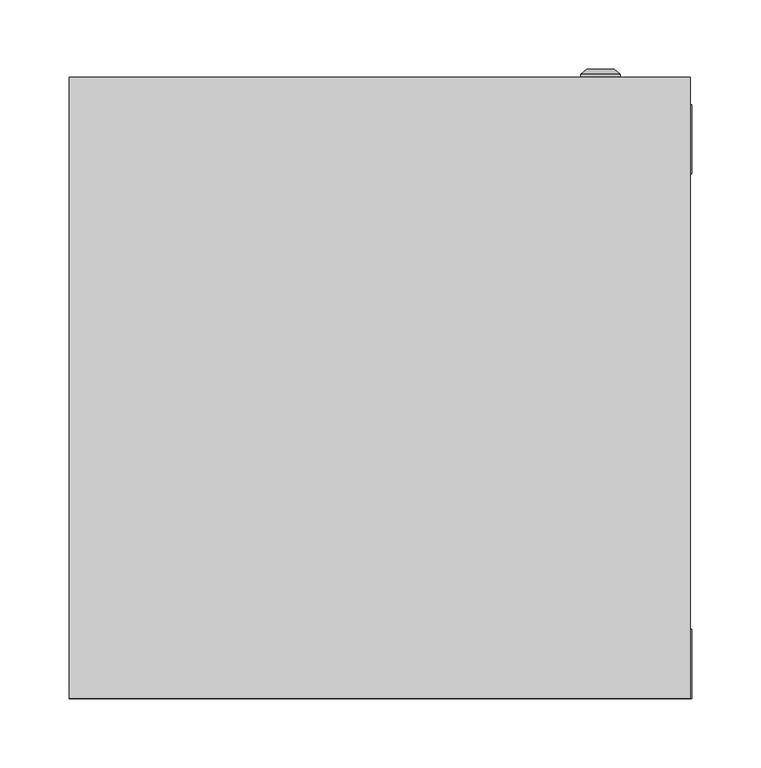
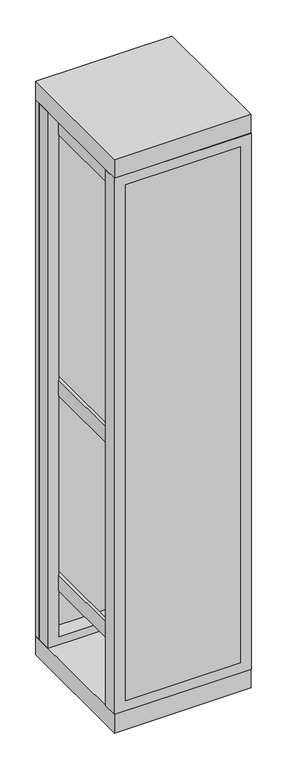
"""IFC4 building model written with IfcOpenShell, lengths in millimetres: proxy geometry, ВРУ-1 : ВРУ-1_2000х450х450."""

import ifcopenshell
import ifcopenshell.guid

model = None  # the IFC model being written
_history = None  # IfcOwnerHistory: only IFC2X3 demands one
_inside = {}  # id of a spatial element -> (the spatial element, [elements in it])
_under = {}  # id of a project, library or spatial element -> (it, [spatial elements below it])
_declared = {}  # id of a project -> (the project, [libraries it declares])
_typed = {}  # id of a type object -> (the type object, [elements of that type])
_made_of = {}  # id of a material, layer set ... -> (it, [elements and type objects made of it])


def new_model(schema):
    """Start an empty IFC model of exactly this schema.

    Asked for "IFC4X3", IfcOpenShell would pick the latest addendum, in which some entities
    have other attributes; the version numbers below select the first issue.
    IFC2X3 requires an IfcOwnerHistory on every rooted entity: one is made here for all.
    """
    global model, _history
    if schema == "IFC4X3":
        model = ifcopenshell.file(schema_version=(4, 3, 0, 0))
    else:
        model = ifcopenshell.file(schema=schema)
    _inside.clear()
    _under.clear()
    _declared.clear()
    _typed.clear()
    _made_of.clear()
    _history = None
    if model.schema == "IFC2X3":
        org = make("IfcOrganization", Name="unknown")
        user = make(
            "IfcPersonAndOrganization",
            ThePerson=make("IfcPerson", FamilyName="unknown"),
            TheOrganization=org,
        )
        app = make(
            "IfcApplication",
            ApplicationDeveloper=org,
            Version="unknown",
            ApplicationFullName="unknown",
            ApplicationIdentifier="unknown",
        )
        _history = make(
            "IfcOwnerHistory",
            OwningUser=user,
            OwningApplication=app,
            ChangeAction="ADDED",
            CreationDate=0,
        )
    return model


def make(cls, **values):
    """One entity of the class cls with the attributes given. An attribute that is None is left unset."""
    return model.create_entity(
        cls, **{name: value for name, value in values.items() if value is not None}
    )


def rooted(cls, **values):
    """An entity with a GlobalId (a new one), such as an element, a storey or a relation."""
    return make(cls, GlobalId=ifcopenshell.guid.new(), OwnerHistory=_history, **values)


def si_unit(unit_type, name, prefix=None):
    """IfcSIUnit, for example si_unit("LENGTHUNIT", "METRE", prefix="MILLI")."""
    return make("IfcSIUnit", UnitType=unit_type, Prefix=prefix, Name=name)


def assignment(units):
    """IfcUnitAssignment: the units of a project."""
    return None if units is None else make("IfcUnitAssignment", Units=units)


def point(xyz):
    """IfcCartesianPoint."""
    return None if xyz is None else make("IfcCartesianPoint", Coordinates=xyz)


def direction(xyz):
    """IfcDirection."""
    return None if xyz is None else make("IfcDirection", DirectionRatios=xyz)


def frame(location, z_axis=None, x_axis=None):
    """IfcAxis2Placement3D, a coordinate frame: its origin and axes. An axis left out is left unset."""
    return make(
        "IfcAxis2Placement3D",
        Location=point(location),
        Axis=direction(z_axis),
        RefDirection=direction(x_axis),
    )


def origin():
    """The frame at (0, 0, 0) with its axes left unset."""
    return frame((0.0, 0.0, 0.0))


def origin_with_axes():
    """The frame at (0, 0, 0) with the z axis (0, 0, 1) and the x axis (1, 0, 0) written out."""
    return frame((0.0, 0.0, 0.0), z_axis=(0.0, 0.0, 1.0), x_axis=(1.0, 0.0, 0.0))


def place(relative_to, where):
    """IfcLocalPlacement: puts the frame where relative to a parent placement (None: the world)."""
    return make(
        "IfcLocalPlacement", PlacementRelTo=relative_to, RelativePlacement=where
    )


def context(
    kind, dimensions, precision=None, world=None, true_north=None, identifier=None
):
    """IfcGeometricRepresentationContext, for example the 3D "Model" context."""
    return make(
        "IfcGeometricRepresentationContext",
        ContextIdentifier=identifier,
        ContextType=kind,
        CoordinateSpaceDimension=dimensions,
        Precision=precision,
        WorldCoordinateSystem=world,
        TrueNorth=true_north,
    )


def project(units=None, contexts=None):
    """IfcProject with its units and contexts."""
    return rooted(
        "IfcProject",
        Name="project",
        RepresentationContexts=contexts,
        UnitsInContext=assignment(units),
    )


def spatial(cls, under=None, at=None, **own):
    """A site, building, storey or space (cls), placed at a placement, below another one or the project."""
    s = rooted(cls, ObjectPlacement=at, **own)
    if under is not None:
        _under.setdefault(under.id(), (under, []))[1].append(s)
    return s


def polyline(points):
    """IfcPolyline through the points."""
    return make("IfcPolyline", Points=[point(p) for p in points])


def circle_curve(where, radius):
    """IfcCircle in the frame where."""
    return make("IfcCircle", Position=where, Radius=radius)


def outline(outer, holes=None, kind="AREA"):
    """IfcArbitraryClosedProfileDef: a profile drawn as a closed curve; with holes, ...WithVoids."""
    if holes is None:
        return make("IfcArbitraryClosedProfileDef", ProfileType=kind, OuterCurve=outer)
    return make(
        "IfcArbitraryProfileDefWithVoids",
        ProfileType=kind,
        OuterCurve=outer,
        InnerCurves=holes,
    )


def extrude(swept, where, along, depth):
    """IfcExtrudedAreaSolid: the profile swept, set in the frame where, extruded along a direction by depth."""
    return make(
        "IfcExtrudedAreaSolid",
        SweptArea=swept,
        Position=where,
        ExtrudedDirection=direction(along),
        Depth=depth,
    )


def shape(context_of_items, identifier, shape_type, items):
    """IfcShapeRepresentation: the items that make up one representation, for example the "Body"."""
    return make(
        "IfcShapeRepresentation",
        ContextOfItems=context_of_items,
        RepresentationIdentifier=identifier,
        RepresentationType=shape_type,
        Items=items,
    )


def source(mapping_origin, context_of_items, identifier, shape_type, items):
    """IfcRepresentationMap: a shape defined once, which mapped items show again and again."""
    return make(
        "IfcRepresentationMap",
        MappingOrigin=mapping_origin,
        MappedRepresentation=shape(context_of_items, identifier, shape_type, items),
    )


def transform(
    local_origin,
    x_axis=None,
    y_axis=None,
    z_axis=None,
    scale=None,
    scale2=None,
    scale3=None,
    uniform=True,
):
    """IfcCartesianTransformationOperator3D, or its non-uniform kind. x_axis, y_axis, z_axis: its Axis1, 2, 3."""
    if uniform:
        return make(
            "IfcCartesianTransformationOperator3D",
            Axis1=direction(x_axis),
            Axis2=direction(y_axis),
            LocalOrigin=point(local_origin),
            Scale=scale,
            Axis3=direction(z_axis),
        )
    return make(
        "IfcCartesianTransformationOperator3DnonUniform",
        Axis1=direction(x_axis),
        Axis2=direction(y_axis),
        LocalOrigin=point(local_origin),
        Scale=scale,
        Axis3=direction(z_axis),
        Scale2=scale2,
        Scale3=scale3,
    )


def mapped(mapping_source, mapping_target):
    """IfcMappedItem: shows the shape of a source again, moved by a transform."""
    return make(
        "IfcMappedItem", MappingSource=mapping_source, MappingTarget=mapping_target
    )


def made_of(thing, what):
    """Note that an element or type object is made of a material, layer set ...; save() writes the relation."""
    if what is not None:
        _made_of.setdefault(what.id(), (what, []))[1].append(thing)
    return thing


def element(
    cls,
    number,
    at=None,
    inside=None,
    cuts=None,
    type_object=None,
    material=None,
    context=None,
    identifier="Body",
    shape_type=None,
    held_by="IfcProductDefinitionShape",
    body=None,
    shapes=None,
    **own,
):
    """One element of the class cls, such as IfcWall. Its Tag is "e" and its number.

    at: its placement. inside: the storey or other place that contains it. cuts: it is an
    opening in that element (IfcRelVoidsElement). A single representation is given by context,
    identifier, shape_type and body (its items); several are given by shapes. held_by: the class
    of the entity that holds the representations. save() writes the other relations.
    """
    e = rooted(cls, Tag="e%d" % number, ObjectPlacement=at, **own)
    if body is not None:
        shapes = [shape(context, identifier, shape_type, body)]
    if shapes is not None:
        e.Representation = make(held_by, Representations=shapes)
    if inside is not None:
        _inside.setdefault(inside.id(), (inside, []))[1].append(e)
    if cuts is not None:
        rooted(
            "IfcRelVoidsElement", RelatingBuildingElement=cuts, RelatedOpeningElement=e
        )
    if type_object is not None:
        _typed.setdefault(type_object.id(), (type_object, []))[1].append(e)
    return made_of(e, material)


def aggregate(whole, parts):
    """IfcRelAggregates: a whole, such as a stair, and the parts it consists of."""
    return rooted("IfcRelAggregates", RelatingObject=whole, RelatedObjects=parts)


def save(model, path):
    """Write the relations noted so far, then the file.

    IfcRelAggregates (storeys below a building ...), IfcRelContainedInSpatialStructure (elements
    in a storey), IfcRelDefinesByType, IfcRelAssociatesMaterial and IfcRelDeclares: one each for
    every whole, place, type object, material and project.
    """
    for whole, parts in _under.values():
        aggregate(whole, parts)
    for where, things in _inside.values():
        rooted(
            "IfcRelContainedInSpatialStructure",
            RelatedElements=things,
            RelatingStructure=where,
        )
    for kind, things in _typed.values():
        rooted("IfcRelDefinesByType", RelatedObjects=things, RelatingType=kind)
    for what, things in _made_of.values():
        rooted("IfcRelAssociatesMaterial", RelatedObjects=things, RelatingMaterial=what)
    for by, libraries in _declared.values():
        rooted("IfcRelDeclares", RelatingContext=by, RelatedDefinitions=libraries)
    model.write(path)


def plane_surface(at):
    """IfcPlane: the flat surface through the origin of the frame at, square to its z axis."""
    return make("IfcPlane", Position=at)


def cylinder_surface(at, radius):
    """IfcCylindricalSurface: all points at the distance radius from the z axis of the frame at."""
    return make("IfcCylindricalSurface", Position=at, Radius=radius)


def revolved_surface(curve, axis_point, axis_direction):
    """IfcSurfaceOfRevolution: the curve turned about the line through axis_point along axis_direction."""
    return make(
        "IfcSurfaceOfRevolution",
        SweptCurve=make("IfcArbitraryOpenProfileDef", ProfileType="CURVE", Curve=curve),
        AxisPosition=make("IfcAxis1Placement", Location=point(axis_point), Axis=direction(axis_direction)),
    )


def advanced_brep(points, edges, surfaces, faces):
    """IfcAdvancedBrep: a solid bounded by faces that lie on surfaces and meet in shared edges.

    An edge is (start, end): straight between two places in points (the first is 0);
    or (start, end, curve); or (start, end, curve, False) where it runs against its curve.
    A face is (place in surfaces, loops), or (place, loops, False) where it looks against
    its surface's normal. A loop lists edges by number (the first is 1), with a minus sign
    where the edge is run from its end to its start. The first loop is the outer one.
    """
    corners = [point(p) for p in points]
    vertices = [make("IfcVertexPoint", VertexGeometry=c) for c in corners]
    made = []
    for start, end, *more in edges:
        made.append(
            make(
                "IfcEdgeCurve",
                EdgeStart=vertices[start],
                EdgeEnd=vertices[end],
                EdgeGeometry=more[0] if more else make("IfcPolyline", Points=[corners[start], corners[end]]),
                SameSense=more[1] if len(more) > 1 else True,
            )
        )
    hull = []
    for where, loops, *sense in faces:
        bounds = []
        for j, loop in enumerate(loops):
            ring = [make("IfcOrientedEdge", EdgeElement=made[abs(k) - 1], Orientation=k > 0) for k in loop]
            bounds.append(
                make(
                    "IfcFaceOuterBound" if j == 0 else "IfcFaceBound",
                    Bound=make("IfcEdgeLoop", EdgeList=ring),
                    Orientation=True,
                )
            )
        hull.append(make("IfcAdvancedFace", Bounds=bounds, FaceSurface=surfaces[where], SameSense=sense[0] if sense else True))
    return make("IfcAdvancedBrep", Outer=make("IfcClosedShell", CfsFaces=hull))


def electrical_equipment_68182195(model_context):
    return source(origin(), model_context, "Body", "SolidModel", [
        extrude(outline(polyline([(190.8707865, 0.0), (-188.3426966, 0.0), (-188.3426966, 10.0), (190.8707865, 10.0), (190.8707865, 0.0)])), frame((0.0, 0.0, 99.1378449), z_axis=(0.0, 0.0, 1.0), x_axis=(1.0, 0.0, 0.0)), (0.0, 0.0, 1.0), 1799.6160511),
        extrude(outline(polyline([(-180.8707865, 125.9831461), (-140.8707865, 125.9831461), (-140.8707865, 93.1179775), (-143.8707865, 93.1179775), (-143.8707865, 122.9831461), (-177.8707865, 122.9831461), (-177.8707865, 93.1179775), (-180.8707865, 93.1179775), (-180.8707865, 125.9831461)])), frame((0.0, 0.0, 189.6067416), z_axis=(0.0, 0.0, 1.0), x_axis=(1.0, 0.0, 0.0)), (0.0, 0.0, 1.0), 1745.3932584),
        extrude(outline(polyline([(140.8707865, 125.9831461), (180.8707865, 125.9831461), (180.8707865, 93.1179775), (177.8707865, 93.1179775), (177.8707865, 122.9831461), (143.8707865, 122.9831461), (143.8707865, 93.1179775), (140.8707865, 93.1179775), (140.8707865, 125.9831461)])), frame((0.0, 0.0, 189.6067416), z_axis=(0.0, 0.0, 1.0), x_axis=(1.0, 0.0, 0.0)), (0.0, 0.0, 1.0), 1745.3932584),
        extrude(outline(polyline([(-180.8707865, 10.0), (-190.8707865, 10.0), (-190.8707865, 430.0), (-180.8707865, 430.0), (-180.8707865, 10.0)])), frame((0.0, 0.0, 1845.5966059), z_axis=(0.0, 0.0, 1.0), x_axis=(1.0, 0.0, 0.0)), (0.0, 0.0, 1.0), 53.0898876),
        extrude(outline(polyline([(190.8707865, 10.0), (180.8707865, 10.0), (180.8707865, 430.0), (190.8707865, 430.0), (190.8707865, 10.0)])), frame((0.0, 0.0, 1845.5966059), z_axis=(0.0, 0.0, 1.0), x_axis=(1.0, 0.0, 0.0)), (0.0, 0.0, 1.0), 53.0898876),
        extrude(outline(polyline([(-180.8707865, 10.0), (-190.8707865, 10.0), (-190.8707865, 430.0), (-180.8707865, 430.0), (-180.8707865, 10.0)])), frame((0.0, 0.0, 255.5966059), z_axis=(0.0, 0.0, 1.0), x_axis=(1.0, 0.0, 0.0)), (0.0, 0.0, 1.0), 53.0898876),
        extrude(outline(polyline([(190.8707865, 10.0), (180.8707865, 10.0), (180.8707865, 430.0), (190.8707865, 430.0), (190.8707865, 10.0)])), frame((0.0, 0.0, 255.5966059), z_axis=(0.0, 0.0, 1.0), x_axis=(1.0, 0.0, 0.0)), (0.0, 0.0, 1.0), 53.0898876),
        extrude(outline(polyline([(-180.8707865, 10.0), (-190.8707865, 10.0), (-190.8707865, 430.0), (-180.8707865, 430.0), (-180.8707865, 10.0)])), frame((0.0, 0.0, 935.5966059), z_axis=(0.0, 0.0, 1.0), x_axis=(1.0, 0.0, 0.0)), (0.0, 0.0, 1.0), 53.0898876),
        extrude(outline(polyline([(190.8707865, 0.0), (180.8707865, 0.0), (180.8707865, 430.0), (190.8707865, 430.0), (190.8707865, 0.0)])), frame((0.0, 0.0, 935.5966059), z_axis=(0.0, 0.0, 1.0), x_axis=(1.0, 0.0, 0.0)), (0.0, 0.0, 1.0), 53.0898876),
        extrude(outline(polyline([(1934.1471543, -225.0), (65.0187804, -225.0), (65.0187804, 226.2640449), (1934.1471543, 226.2640449), (1934.1471543, -225.0)]), holes=[polyline([(99.1378449, 190.8707865), (99.1378449, -188.3426966), (1898.7538959, -188.3426966), (1898.7538959, 190.8707865), (99.1378449, 190.8707865)])]), frame((0.0, 0.0, 0.0), z_axis=(0.0, 1.0, 0.0), x_axis=(0.0, 0.0, 1.0)), (0.0, 0.0, 1.0), 50.0),
        extrude(outline(polyline([(1935.0, -225.0), (65.0187804, -225.0), (65.0187804, 226.2640449), (1935.0, 226.2640449), (1935.0, -225.0)]), holes=[polyline([(93.3701084, 190.8707865), (93.3701084, -188.3426966), (1892.9861595, -188.3426966), (1892.9861595, 190.8707865), (93.3701084, 190.8707865)])]), frame((0.0, 380.0, 0.0), z_axis=(0.0, 1.0, 0.0), x_axis=(0.0, 0.0, 1.0)), (0.0, 0.0, 1.0), 50.0),
        extrude(outline(polyline([(225.0067809, 450.0), (225.0067809, 0.0), (-225.0, 0.0), (-225.0, 450.0), (225.0067809, 450.0)])), frame((0.0, 0.0, 1935.0), z_axis=(0.0, 0.0, 1.0), x_axis=(1.0, 0.0, 0.0)), (0.0, 0.0, 1.0), 65.0),
        advanced_brep(
        [(145.669873, 450.0, 515.0), (174.330127, 450.0, 515.0), (160.0, 450.0, 515.0), (145.669873, 452.366592, 515.0), (174.330127, 452.366592, 515.0), (150.0, 456.0, 515.0), (170.0, 456.0, 515.0), (158.1080471, 456.0, 515.0), (161.8919529, 456.0, 515.0), (158.1080471, 454.9822294, 515.0), (161.8919529, 454.9822294, 515.0), (160.0, 454.9822294, 515.0)],
        [
            (0, 1, circle_curve(frame((160.0, 450.0, 515.0), z_axis=(0.0, -1.0, 0.0), x_axis=(1.0, 0.0, 0.0)), 14.330127)),
            (1, 2),
            (2, 0),
            (1, 0, circle_curve(frame((160.0, 450.0, 515.0), z_axis=(0.0, -1.0, 0.0), x_axis=(1.0, 0.0, 0.0)), 14.330127)),
            (3, 4, circle_curve(frame((160.0, 452.366592, 515.0), z_axis=(0.0, -1.0, 0.0), x_axis=(1.0, 0.0, 0.0)), 14.330127)),
            (4, 1),
            (0, 3),
            (4, 3, circle_curve(frame((160.0, 452.366592, 515.0), z_axis=(0.0, -1.0, 0.0), x_axis=(1.0, 0.0, 0.0)), 14.330127)),
            (5, 6, circle_curve(frame((160.0, 456.0, 515.0), z_axis=(0.0, -1.0, 0.0), x_axis=(1.0, 0.0, 0.0)), 10.0)),
            (6, 4),
            (3, 5),
            (6, 5, circle_curve(frame((160.0, 456.0, 515.0), z_axis=(0.0, -1.0, 0.0), x_axis=(1.0, 0.0, 0.0)), 10.0)),
            (7, 8, circle_curve(frame((160.0, 456.0, 515.0), z_axis=(0.0, -1.0, 0.0), x_axis=(1.0, 0.0, 0.0)), 1.8919529)),
            (8, 6),
            (5, 7),
            (8, 7, circle_curve(frame((160.0, 456.0, 515.0), z_axis=(0.0, -1.0, 0.0), x_axis=(1.0, 0.0, 0.0)), 1.8919529)),
            (9, 10, circle_curve(frame((160.0, 454.9822294, 515.0), z_axis=(0.0, -1.0, 0.0), x_axis=(1.0, 0.0, 0.0)), 1.8919529)),
            (10, 8),
            (7, 9),
            (10, 9, circle_curve(frame((160.0, 454.9822294, 515.0), z_axis=(0.0, -1.0, 0.0), x_axis=(1.0, 0.0, 0.0)), 1.8919529)),
            (11, 10),
            (9, 11),
        ],
        [
            plane_surface(frame((160.0, 450.0, 515.0), z_axis=(0.0, -1.0, 0.0), x_axis=(1.0, 0.0, 0.0))),
            cylinder_surface(frame((160.0, 463.1348851, 515.0), z_axis=(0.0, 1.0, 0.0), x_axis=(1.0, 0.0, 0.0)), 14.330127),
            revolved_surface(polyline([(174.330127, 452.366592, 515.0), (170.0, 456.0, 515.0)]), (160.0, 463.1348851, 515.0), (0.0, 1.0, 0.0)),
            plane_surface(frame((160.0, 456.0, 515.0), z_axis=(0.0, 1.0, 0.0), x_axis=(1.0, 0.0, 0.0))),
            revolved_surface(polyline([(161.8919529, 456.0, 515.0), (161.8919529, 454.9822294, 515.0)]), (160.0, 463.1348851, 515.0), (0.0, 1.0, 0.0)),
            plane_surface(frame((160.0, 454.9822294, 515.0), z_axis=(0.0, 1.0, 0.0), x_axis=(1.0, 0.0, 0.0))),
        ],
        [
            (0, [[1, 2, 3]]),
            (0, [[4, -3, -2]]),
            (1, [[5, 6, -1, 7]]),
            (1, [[8, -7, -4, -6]]),
            (2, [[9, 10, -5, 11]]),
            (2, [[12, -11, -8, -10]]),
            (3, [[13, 14, -9, 15]]),
            (3, [[16, -15, -12, -14]]),
            (4, [[17, 18, -13, 19]]),
            (4, [[20, -19, -16, -18]]),
            (5, [[21, -17, 22]]),
            (5, [[-22, -20, -21]]),
        ],
    ),
        advanced_brep(
        [(145.669873, 450.0, 1485.0), (174.330127, 450.0, 1485.0), (160.0, 450.0, 1485.0), (145.669873, 452.366592, 1485.0), (174.330127, 452.366592, 1485.0), (150.0, 456.0, 1485.0), (170.0, 456.0, 1485.0), (158.1080471, 456.0, 1485.0), (161.8919529, 456.0, 1485.0), (158.1080471, 454.9822294, 1485.0), (161.8919529, 454.9822294, 1485.0), (160.0, 454.9822294, 1485.0)],
        [
            (0, 1, circle_curve(frame((160.0, 450.0, 1485.0), z_axis=(0.0, -1.0, 0.0), x_axis=(1.0, 0.0, 0.0)), 14.330127)),
            (1, 2),
            (2, 0),
            (1, 0, circle_curve(frame((160.0, 450.0, 1485.0), z_axis=(0.0, -1.0, 0.0), x_axis=(1.0, 0.0, 0.0)), 14.330127)),
            (3, 4, circle_curve(frame((160.0, 452.366592, 1485.0), z_axis=(0.0, -1.0, 0.0), x_axis=(1.0, 0.0, 0.0)), 14.330127)),
            (4, 1),
            (0, 3),
            (4, 3, circle_curve(frame((160.0, 452.366592, 1485.0), z_axis=(0.0, -1.0, 0.0), x_axis=(1.0, 0.0, 0.0)), 14.330127)),
            (5, 6, circle_curve(frame((160.0, 456.0, 1485.0), z_axis=(0.0, -1.0, 0.0), x_axis=(1.0, 0.0, 0.0)), 10.0)),
            (6, 4),
            (3, 5),
            (6, 5, circle_curve(frame((160.0, 456.0, 1485.0), z_axis=(0.0, -1.0, 0.0), x_axis=(1.0, 0.0, 0.0)), 10.0)),
            (7, 8, circle_curve(frame((160.0, 456.0, 1485.0), z_axis=(0.0, -1.0, 0.0), x_axis=(1.0, 0.0, 0.0)), 1.8919529)),
            (8, 6),
            (5, 7),
            (8, 7, circle_curve(frame((160.0, 456.0, 1485.0), z_axis=(0.0, -1.0, 0.0), x_axis=(1.0, 0.0, 0.0)), 1.8919529)),
            (9, 10, circle_curve(frame((160.0, 454.9822294, 1485.0), z_axis=(0.0, -1.0, 0.0), x_axis=(1.0, 0.0, 0.0)), 1.8919529)),
            (10, 8),
            (7, 9),
            (10, 9, circle_curve(frame((160.0, 454.9822294, 1485.0), z_axis=(0.0, -1.0, 0.0), x_axis=(1.0, 0.0, 0.0)), 1.8919529)),
            (11, 10),
            (9, 11),
        ],
        [
            plane_surface(frame((160.0, 450.0, 1485.0), z_axis=(0.0, -1.0, 0.0), x_axis=(1.0, 0.0, 0.0))),
            cylinder_surface(frame((160.0, 463.1348851, 1485.0), z_axis=(0.0, 1.0, 0.0), x_axis=(1.0, 0.0, 0.0)), 14.330127),
            revolved_surface(polyline([(174.330127, 452.366592, 1485.0), (170.0, 456.0, 1485.0)]), (160.0, 463.1348851, 1485.0), (0.0, 1.0, 0.0)),
            plane_surface(frame((160.0, 456.0, 1485.0), z_axis=(0.0, 1.0, 0.0), x_axis=(1.0, 0.0, 0.0))),
            revolved_surface(polyline([(161.8919529, 456.0, 1485.0), (161.8919529, 454.9822294, 1485.0)]), (160.0, 463.1348851, 1485.0), (0.0, 1.0, 0.0)),
            plane_surface(frame((160.0, 454.9822294, 1485.0), z_axis=(0.0, 1.0, 0.0), x_axis=(1.0, 0.0, 0.0))),
        ],
        [
            (0, [[1, 2, 3]]),
            (0, [[4, -3, -2]]),
            (1, [[5, 6, -1, 7]]),
            (1, [[8, -7, -4, -6]]),
            (2, [[9, 10, -5, 11]]),
            (2, [[12, -11, -8, -10]]),
            (3, [[13, 14, -9, 15]]),
            (3, [[16, -15, -12, -14]]),
            (4, [[17, 18, -13, 19]]),
            (4, [[20, -19, -16, -18]]),
            (5, [[21, -17, 22]]),
            (5, [[-22, -20, -21]]),
        ],
    ),
        extrude(outline(polyline([(225.0067809, 450.0), (225.0067809, 0.0), (-225.0, 0.0), (-225.0, 450.0), (225.0067809, 450.0)])), origin_with_axes(), (0.0, 0.0, 1.0), 65.0187804),
        extrude(outline(polyline([(225.0, 430.0), (-225.0, 430.0), (-225.0, 450.0), (225.0, 450.0), (225.0, 430.0)])), frame((0.0, 0.0, 65.0187804), z_axis=(0.0, 0.0, 1.0), x_axis=(1.0, 0.0, 0.0)), (0.0, 0.0, 1.0), 1869.9812196),
    ])


if __name__ == "__main__":
    model = new_model("IFC4")
    model_context = context("Model", 3, world=origin())
    ifc_project = project(units=[si_unit("LENGTHUNIT", "METRE", prefix="MILLI")], contexts=[model_context])
    site = spatial("IfcSite", under=ifc_project)
    building = spatial("IfcBuilding", under=site)
    placement = place(None, origin())
    electrical_equipment_shape = electrical_equipment_68182195(model_context)
    element("IfcBuildingElementProxy", 1, Name="ВРУ-1 : ВРУ-1_2000х450х450", ObjectType="ВРУ-1 : ВРУ-1_2000х450х450", at=placement, inside=building, context=model_context, shape_type="MappedRepresentation", body=[
        mapped(electrical_equipment_shape, transform((0.0, 0.0, 0.0), x_axis=(1.0, 0.0, 0.0), y_axis=(0.0, 1.0, 0.0), z_axis=(0.0, 0.0, 1.0))),
    ])
    save(model, "model.ifc")
